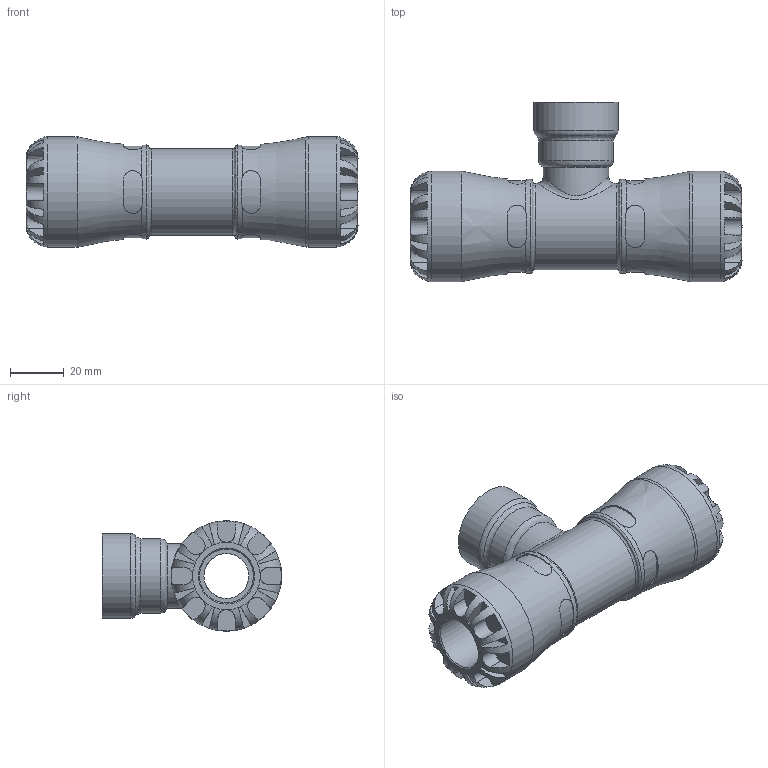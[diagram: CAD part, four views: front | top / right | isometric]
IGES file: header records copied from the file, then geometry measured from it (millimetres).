
Global section: file name: 101400020007_191400020007.ipt; native system: Autodesk Inventor 2015; preprocessor: unknown; author: KIM; date: 20170130.090631; units: millimetre
Bounding box: 123 x 66.5 x 41 mm (x, y, z)
Volume: 92919.4 mm3; surface area: 31000.6 mm2
Topology: 1 solids, 1 shells, 204 faces, 550 edges, 352 vertices
Faces by surface type: plane 120, revolution 51, cylinder 32, bspline 1
Full cylindrical faces by diameter (mm): 24.117 x1, 27.735 x1, 31.352 x1, 31.98 x1, 34.85 x2, 41 x2
